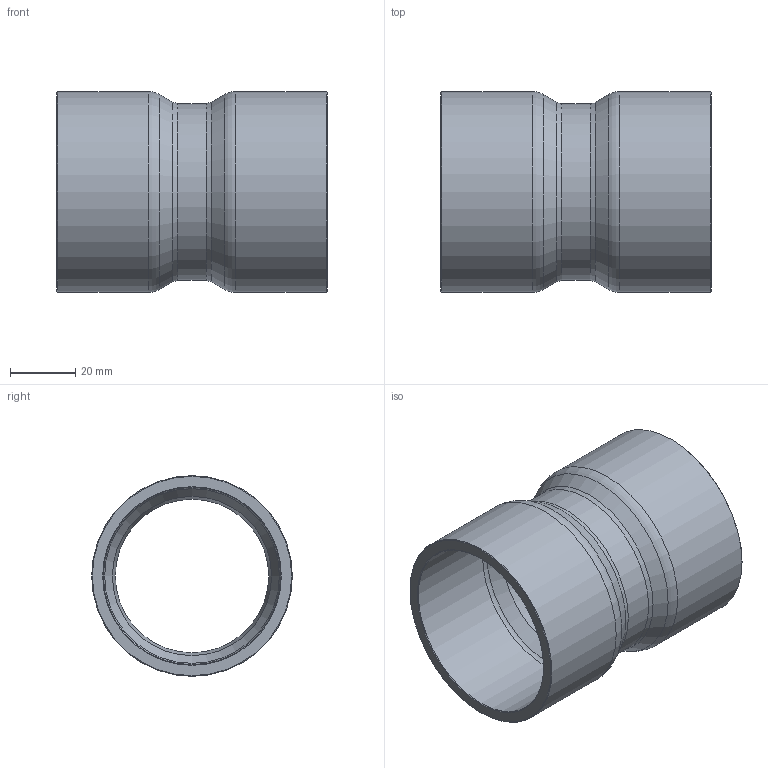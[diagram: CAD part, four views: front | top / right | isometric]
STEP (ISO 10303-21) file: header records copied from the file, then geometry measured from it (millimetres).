
FILE_DESCRIPTION((''),'2;1');
FILE_NAME('G:\SANHA-Ternat\Technik\Management\Bouwmaten + markeringen\z-maattekeningen 3D\29000s\29270218_3d.stp','2017-08-03T14:55:30',('vdvijverd'),(''),'Autodesk Inventor 2009','Autodesk Inventor 2009','');
FILE_SCHEMA(('AUTOMOTIVE_DESIGN { 1 0 10303 214 1 1 1 1 }'));
Length unit declared in the file: millimetre
Products named in the file (1): 29270218_3d
Bounding box: 82.5 x 61.3 x 61.3 mm (x, y, z)
Volume: 52941.8 mm3; surface area: 30909.5 mm2
Topology: 1 solids, 1 shells, 24 faces, 46 edges, 24 vertices
Faces by surface type: cone 8, cylinder 6, torus 4, bspline 4, plane 2
Full cylindrical faces by diameter (mm): 46.87 x1, 53.97 x1, 54.155 x2, 61.3 x2
Entity records: 674 total; most frequent: CARTESIAN_POINT 249, DIRECTION 90, ORIENTED_EDGE 48, EDGE_LOOP 48, AXIS2_PLACEMENT_3D 45, VERTEX_POINT 24, CIRCLE 24, EDGE_CURVE 24
